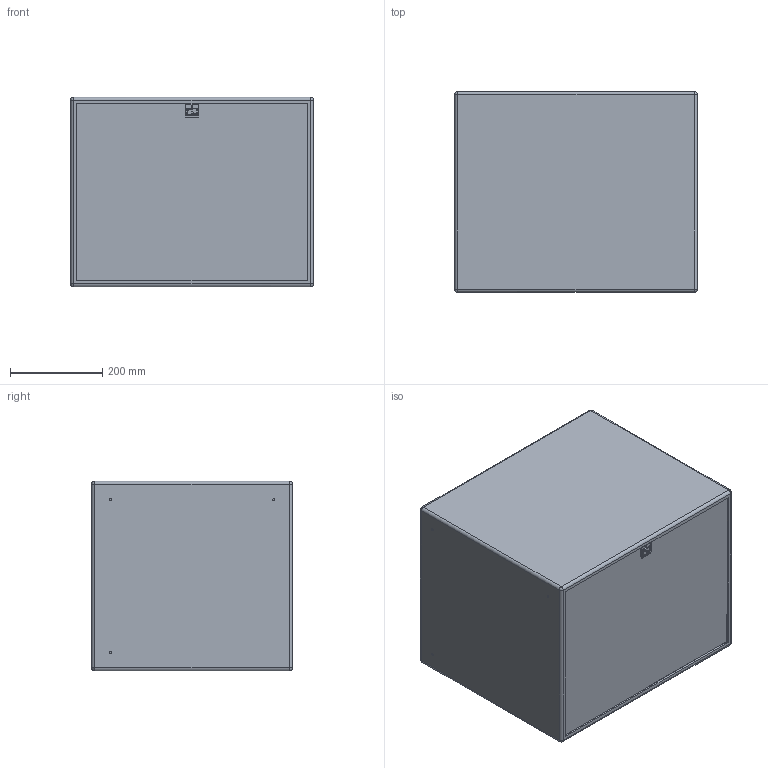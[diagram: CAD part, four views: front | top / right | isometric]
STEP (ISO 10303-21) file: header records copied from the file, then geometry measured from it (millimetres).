
FILE_DESCRIPTION(/* description */ (''),/* implementation_level */ '2;1');
FILE_NAME(/* name */ 'AS-22A~1',/* time_stamp */ '2018-07-27T12:27:50+02:00',/* author */ (''),/* organization */ (''),/* preprocessor_version */ 'ST-DEVELOPER v14',/* originating_system */ '',/* authorisation */ '');
FILE_SCHEMA (('AUTOMOTIVE_DESIGN'));
Length unit declared in the file: millimetre
Products named in the file (1): Document
Bounding box: 525 x 434 x 410 mm (x, y, z)
Surface area: 1631764.3 mm2 (no closed solid volume)
Topology: 0 solids, 162 shells, 168 faces, 791 edges, 779 vertices
Faces by surface type: bspline 89, plane 79
Entity records: 8533 total; most frequent: CARTESIAN_POINT 4474, ORIENTED_EDGE 803, EDGE_CURVE 791, VERTEX_POINT 779, B_SPLINE_CURVE_WITH_KNOTS 399, EDGE_LOOP 187, ADVANCED_FACE 168, FACE_OUTER_BOUND 168
